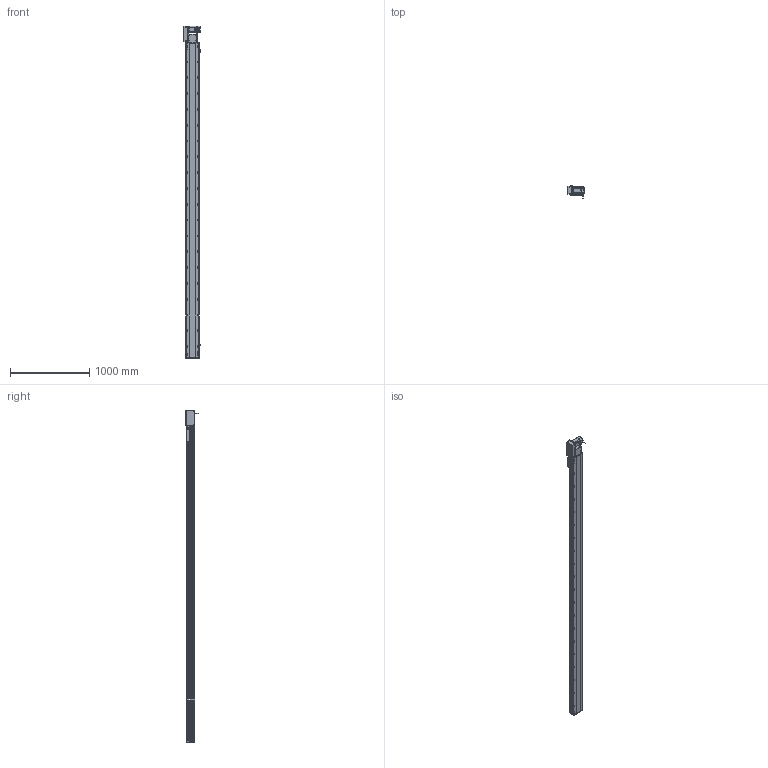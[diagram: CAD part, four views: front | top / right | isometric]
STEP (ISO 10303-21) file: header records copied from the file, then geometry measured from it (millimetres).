
FILE_DESCRIPTION (( 'STEP AP214' ), '1' );
FILE_NAME ('RTB17S-XX-3700-L-M75-C4.STEP', '2025-12-12T00:29:07', ( '' ), ( '' ), 'SwSTEP 2.0', 'SolidWorks 2018', '' );
FILE_SCHEMA (( 'AUTOMOTIVE_DESIGN' ));
Length unit declared in the file: millimetre
Products named in the file (15): EE672^RTB17S-XX-XX-L-M75-C4; RTB17S-L-々湍釱蚾饜-750W^RTB17S-XX-XX-L-M75-C4; RTB22S-GY-005P^RTB17S-L-々湍釱蚾饜-750W_RTB17S-XX-XX-L-M75-C4; RTB22S-GY-008-M75--萇儂啣^RTB17S-L-々湍釱蚾饜-750W_RTB17S-XX-XX-L-M75-C4; RTB17-R-011菁釱^RTB17S-XX-XX-L-M75-C4; RTB17S-L-007奻裔^RTB17S-XX-XX-L-M75-C4; RTH13-BL-012覜茼え俋离^RTB17S-賑釱_RTB17S-XX-XX-L-M75-C4; RTB22S-GY-017P^RTB17S-L-々湍釱蚾饜-750W_RTB17S-XX-XX-L-M75-C4; RTB17S-L-004-賑釱^RTB17S-賑釱_RTB17S-XX-XX-L-M75-C4; 750W萇儂^RTB17S-XX-XX-L-M75-C4; RTB22S-GY-018P^RTB17S-L-々湍釱蚾饜-750W_RTB17S-XX-XX-L-M75-C4; RMP17S-L-014-T20-P75--々湍釱^RTB17S-L-々湍釱蚾饜-750W_RTB17S-XX-XX-L-M75-C4; RTB17S-賑釱^RTB17S-XX-XX-L-M75-C4; RTB17S-XX-3700-L-M75-C4; RTB17S-L-001-耜醱啣^RTB17S-XX-XX-L-M75-C4
Assembly tree (17 placements, depth 3):
  RTB17S-XX-3700-L-M75-C4
    RTB17-R-011菁釱^RTB17S-XX-XX-L-M75-C4
    EE672^RTB17S-XX-XX-L-M75-C4  x3
    RTB17S-L-001-耜醱啣^RTB17S-XX-XX-L-M75-C4
    RTB17S-賑釱^RTB17S-XX-XX-L-M75-C4
      RTB17S-L-004-賑釱^RTB17S-賑釱_RTB17S-XX-XX-L-M75-C4
      RTH13-BL-012覜茼え俋离^RTB17S-賑釱_RTB17S-XX-XX-L-M75-C4
    RTB17S-L-007奻裔^RTB17S-XX-XX-L-M75-C4
    750W萇儂^RTB17S-XX-XX-L-M75-C4
    RTB17S-L-々湍釱蚾饜-750W^RTB17S-XX-XX-L-M75-C4
      RMP17S-L-014-T20-P75--々湍釱^RTB17S-L-々湍釱蚾饜-750W_RTB17S-XX-XX-L-M75-C4
      RTB22S-GY-005P^RTB17S-L-々湍釱蚾饜-750W_RTB17S-XX-XX-L-M75-C4
      RTB22S-GY-017P^RTB17S-L-々湍釱蚾饜-750W_RTB17S-XX-XX-L-M75-C4  x2
      RTB22S-GY-008-M75--萇儂啣^RTB17S-L-々湍釱蚾饜-750W_RTB17S-XX-XX-L-M75-C4
      RTB22S-GY-018P^RTB17S-L-々湍釱蚾饜-750W_RTB17S-XX-XX-L-M75-C4
Bounding box: 210.4 x 152.7 x 4199 mm (x, y, z)
Volume: 29076646.8 mm3; surface area: 5388307.3 mm2
Topology: 17 solids, 17 shells, 2313 faces, 6538 edges, 4238 vertices
Faces by surface type: plane 998, cylinder 899, bspline 294, cone 110, sphere 8, torus 4
Entity records: 68854 total; most frequent: CARTESIAN_POINT 20602, ORIENTED_EDGE 9920, DIRECTION 9122, EDGE_CURVE 4960, AXIS2_PLACEMENT_3D 3258, VERTEX_POINT 3242, LINE 2606, VECTOR 2606
